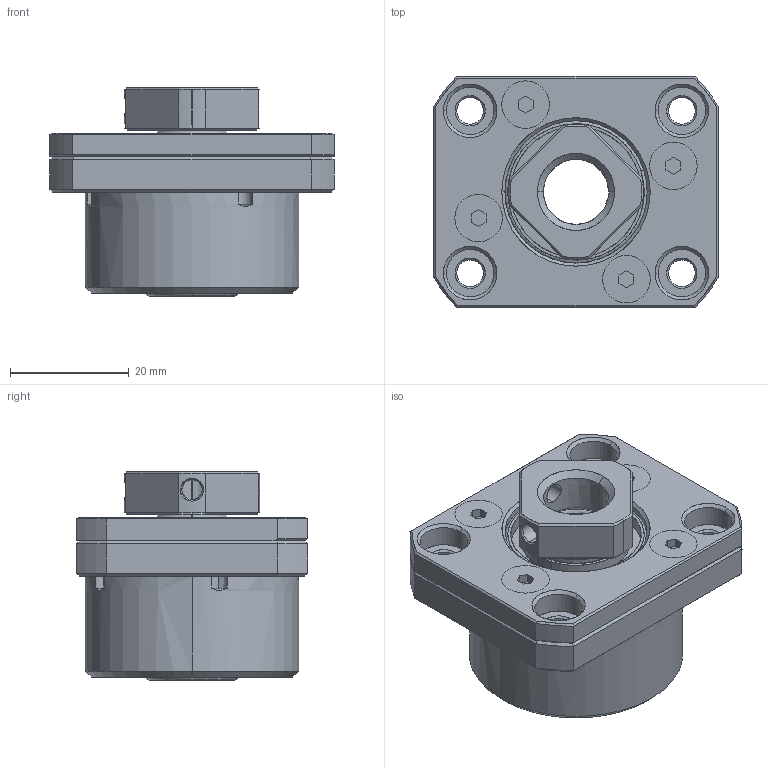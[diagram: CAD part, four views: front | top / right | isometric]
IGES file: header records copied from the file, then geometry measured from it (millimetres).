
Start section: SolidWorks IGES file using analytic representation for surfaces
Bounding box: 48 x 39 x 35.1 mm (x, y, z)
Surface area: 13452.3 mm2 (no closed solid volume)
Topology: 0 solids, 0 shells, 239 faces, 3250 edges, 3250 vertices
Faces by surface type: revolution 131, bspline 108
